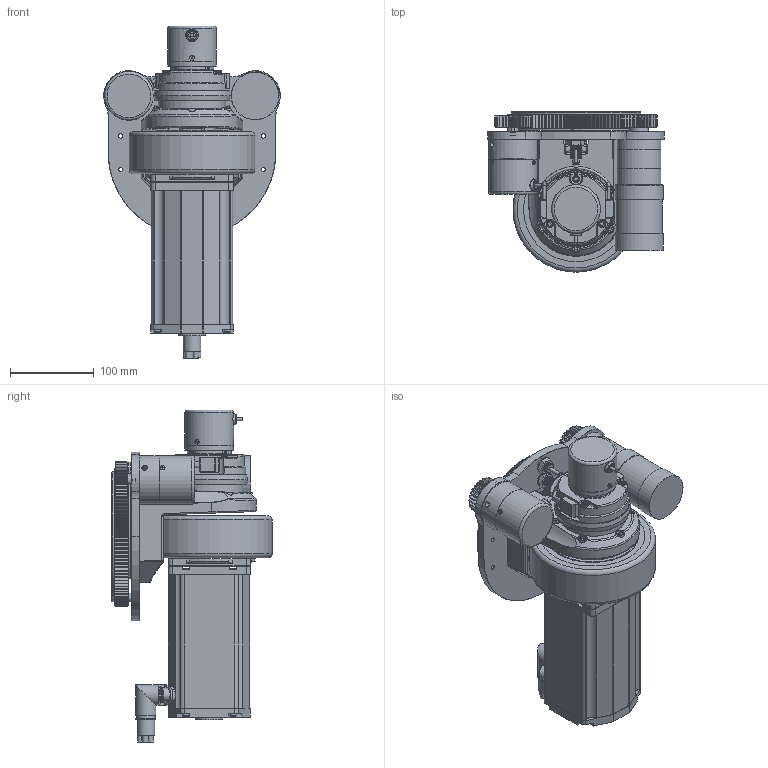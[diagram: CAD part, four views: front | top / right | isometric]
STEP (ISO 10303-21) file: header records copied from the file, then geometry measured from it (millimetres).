
FILE_DESCRIPTION (( 'STEP AP214' ), '1' );
FILE_NAME ('ZLW-190-9580-908.STEP', '2019-04-23T23:40:18', ( '' ), ( '' ), 'SwSTEP 2.0', 'SolidWorks 2016', '' );
FILE_SCHEMA (( 'AUTOMOTIVE_DESIGN' ));
Length unit declared in the file: millimetre
Products named in the file (1): ZLW-190-9580-908
Bounding box: 210.4 x 191 x 395.5 mm (x, y, z)
Surface area: 453281.1 mm2 (no closed solid volume)
Topology: 0 solids, 109 shells, 1874 faces, 6302 edges, 4461 vertices
Faces by surface type: cylinder 960, plane 461, cone 289, bspline 90, torus 64, sphere 10
Full cylindrical faces by diameter (mm): 1.2 x12, 1.5 x2, 4 x2, 4.5 x6, 4.55 x4, 4.7 x4, 5 x18, 5.1 x1, 5.5 x4, 5.54 x4, 6 x11, 7 x3, 7.53 x1, 8 x9, 8.5 x5, 9 x12, 10 x4, 11 x14, 12 x2, 15 x1, 16 x2, 18 x1, 20 x1, 21 x1, 22 x2, 24 x3, 25 x1, 26 x1, 32 x1, 38 x1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
Entity records: 109021 total; most frequent: CARTESIAN_POINT 37415, DIRECTION 10489, ORIENTED_EDGE 9438, EDGE_CURVE 5934, VERTEX_POINT 4397, AXIS2_PLACEMENT_3D 4200, EDGE_LOOP 2421, CIRCLE 2415
